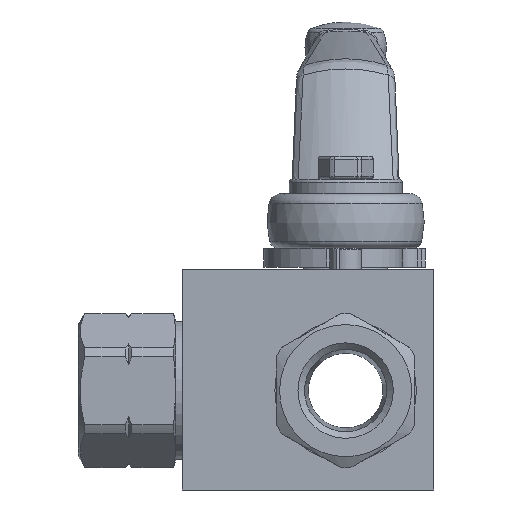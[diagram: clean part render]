
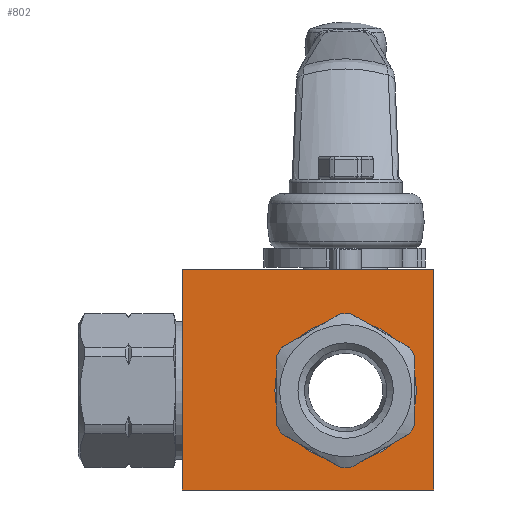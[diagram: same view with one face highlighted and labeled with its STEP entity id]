
A CAD part, front view. The second image highlights one B-rep face of the part: STEP entity #802.
In plain terms, the highlighted planar face has unit normal (0, -1, 0).
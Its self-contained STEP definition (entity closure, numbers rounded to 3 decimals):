
#802 = ADVANCED_FACE( '', ( #1799, #1800 ), #1801, .T. );
#1799 = FACE_OUTER_BOUND( '', #3471, .T. );
#1800 = FACE_BOUND( '', #3472, .T. );
#1801 = PLANE( '', #3473 );
#3471 = EDGE_LOOP( '', ( #5928, #5929, #5930, #5931 ) );
#3472 = EDGE_LOOP( '', ( #5932 ) );
#3473 = AXIS2_PLACEMENT_3D( '', #5933, #5934, #5935 );
#5928 = ORIENTED_EDGE( '', *, *, #9066, .T. );
#5929 = ORIENTED_EDGE( '', *, *, #8928, .T. );
#5930 = ORIENTED_EDGE( '', *, *, #9067, .T. );
#5931 = ORIENTED_EDGE( '', *, *, #8962, .T. );
#5932 = ORIENTED_EDGE( '', *, *, #9068, .T. );
#5933 = CARTESIAN_POINT( '', ( -26., -17.5, -15.8 ) );
#5934 = DIRECTION( '', ( 0., -1., 0. ) );
#5935 = DIRECTION( '', ( 0., 0., -1. ) );
#8928 = EDGE_CURVE( '', #10513, #10511, #10514, .T. );
#8962 = EDGE_CURVE( '', #10570, #10568, #10571, .T. );
#9066 = EDGE_CURVE( '', #10568, #10513, #10745, .T. );
#9067 = EDGE_CURVE( '', #10511, #10570, #10746, .T. );
#9068 = EDGE_CURVE( '', #10747, #10747, #10748, .T. );
#10511 = VERTEX_POINT( '', #13111 );
#10513 = VERTEX_POINT( '', #13114 );
#10514 = LINE( '', #13115, #13116 );
#10568 = VERTEX_POINT( '', #13302 );
#10570 = VERTEX_POINT( '', #13305 );
#10571 = LINE( '', #13306, #13307 );
#10745 = LINE( '', #13692, #13693 );
#10746 = LINE( '', #13694, #13695 );
#10747 = VERTEX_POINT( '', #13696 );
#10748 = CIRCLE( '', #13697, 11.25 );
#13111 = CARTESIAN_POINT( '', ( 14., -17.5, -15.8 ) );
#13114 = CARTESIAN_POINT( '', ( -26., -17.5, -15.8 ) );
#13115 = CARTESIAN_POINT( '', ( -26., -17.5, -15.8 ) );
#13116 = VECTOR( '', #16480, 1000. );
#13302 = CARTESIAN_POINT( '', ( -26., -17.5, 19.2 ) );
#13305 = CARTESIAN_POINT( '', ( 14., -17.5, 19.2 ) );
#13306 = CARTESIAN_POINT( '', ( 14., -17.5, 19.2 ) );
#13307 = VECTOR( '', #16522, 1000. );
#13692 = CARTESIAN_POINT( '', ( -26., -17.5, 19.2 ) );
#13693 = VECTOR( '', #16665, 1000. );
#13694 = CARTESIAN_POINT( '', ( 14., -17.5, -15.8 ) );
#13695 = VECTOR( '', #16666, 1000. );
#13696 = CARTESIAN_POINT( '', ( 11.25, -17.5, 0. ) );
#13697 = AXIS2_PLACEMENT_3D( '', #16667, #16668, #16669 );
#16480 = DIRECTION( '', ( 1., 0., 0. ) );
#16522 = DIRECTION( '', ( -1., 0., 0. ) );
#16665 = DIRECTION( '', ( 0., 0., -1. ) );
#16666 = DIRECTION( '', ( 0., 0., 1. ) );
#16667 = CARTESIAN_POINT( '', ( 0., -17.5, 0. ) );
#16668 = DIRECTION( '', ( 0., 1., 0. ) );
#16669 = DIRECTION( '', ( 1., 0., 0. ) );
